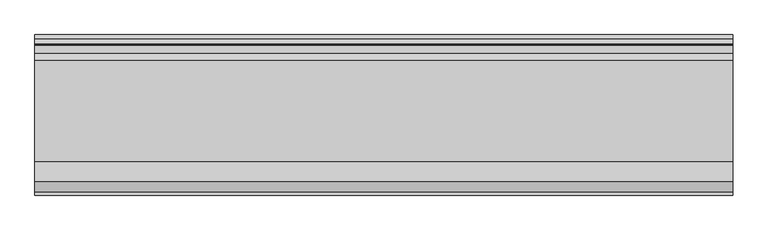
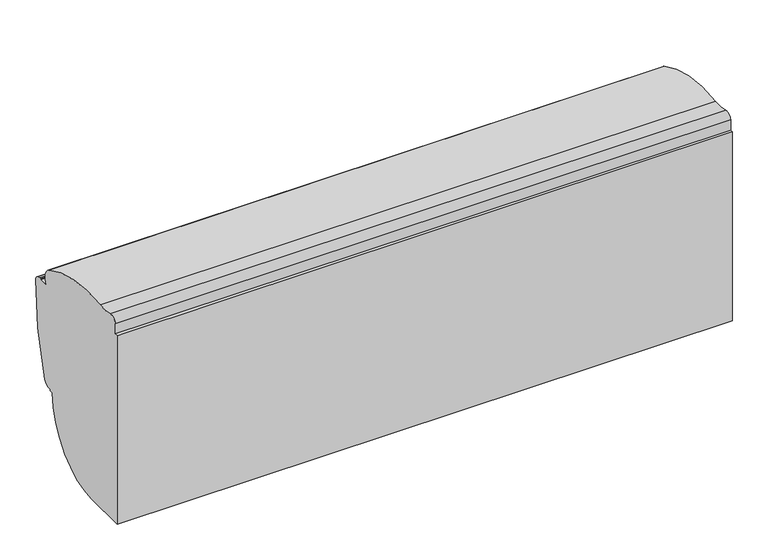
"""IFC4 building model written with IfcOpenShell, lengths in millimetres: proxy geometry, AI_Eqpmt genie clim_Unité intérieure de climatisation : AI_Eqpmt genie clim_Unité intérieure de climatisation."""

import ifcopenshell
import ifcopenshell.guid

model = None  # the IFC model being written
_history = None  # IfcOwnerHistory: only IFC2X3 demands one
_inside = {}  # id of a spatial element -> (the spatial element, [elements in it])
_under = {}  # id of a project, library or spatial element -> (it, [spatial elements below it])
_declared = {}  # id of a project -> (the project, [libraries it declares])
_typed = {}  # id of a type object -> (the type object, [elements of that type])
_made_of = {}  # id of a material, layer set ... -> (it, [elements and type objects made of it])


def new_model(schema):
    """Start an empty IFC model of exactly this schema.

    Asked for "IFC4X3", IfcOpenShell would pick the latest addendum, in which some entities
    have other attributes; the version numbers below select the first issue.
    IFC2X3 requires an IfcOwnerHistory on every rooted entity: one is made here for all.
    """
    global model, _history
    if schema == "IFC4X3":
        model = ifcopenshell.file(schema_version=(4, 3, 0, 0))
    else:
        model = ifcopenshell.file(schema=schema)
    _inside.clear()
    _under.clear()
    _declared.clear()
    _typed.clear()
    _made_of.clear()
    _history = None
    if model.schema == "IFC2X3":
        org = make("IfcOrganization", Name="unknown")
        user = make(
            "IfcPersonAndOrganization",
            ThePerson=make("IfcPerson", FamilyName="unknown"),
            TheOrganization=org,
        )
        app = make(
            "IfcApplication",
            ApplicationDeveloper=org,
            Version="unknown",
            ApplicationFullName="unknown",
            ApplicationIdentifier="unknown",
        )
        _history = make(
            "IfcOwnerHistory",
            OwningUser=user,
            OwningApplication=app,
            ChangeAction="ADDED",
            CreationDate=0,
        )
    return model


def make(cls, **values):
    """One entity of the class cls with the attributes given. An attribute that is None is left unset."""
    return model.create_entity(
        cls, **{name: value for name, value in values.items() if value is not None}
    )


def rooted(cls, **values):
    """An entity with a GlobalId (a new one), such as an element, a storey or a relation."""
    return make(cls, GlobalId=ifcopenshell.guid.new(), OwnerHistory=_history, **values)


def si_unit(unit_type, name, prefix=None):
    """IfcSIUnit, for example si_unit("LENGTHUNIT", "METRE", prefix="MILLI")."""
    return make("IfcSIUnit", UnitType=unit_type, Prefix=prefix, Name=name)


def assignment(units):
    """IfcUnitAssignment: the units of a project."""
    return None if units is None else make("IfcUnitAssignment", Units=units)


def point(xyz):
    """IfcCartesianPoint."""
    return None if xyz is None else make("IfcCartesianPoint", Coordinates=xyz)


def direction(xyz):
    """IfcDirection."""
    return None if xyz is None else make("IfcDirection", DirectionRatios=xyz)


def frame(location, z_axis=None, x_axis=None):
    """IfcAxis2Placement3D, a coordinate frame: its origin and axes. An axis left out is left unset."""
    return make(
        "IfcAxis2Placement3D",
        Location=point(location),
        Axis=direction(z_axis),
        RefDirection=direction(x_axis),
    )


def frame_2d(location, x_axis=None):
    """IfcAxis2Placement2D, a coordinate frame in the plane: its origin and x axis."""
    return make(
        "IfcAxis2Placement2D", Location=point(location), RefDirection=direction(x_axis)
    )


def origin():
    """The frame at (0, 0, 0) with its axes left unset."""
    return frame((0.0, 0.0, 0.0))


def place(relative_to, where):
    """IfcLocalPlacement: puts the frame where relative to a parent placement (None: the world)."""
    return make(
        "IfcLocalPlacement", PlacementRelTo=relative_to, RelativePlacement=where
    )


def context(
    kind, dimensions, precision=None, world=None, true_north=None, identifier=None
):
    """IfcGeometricRepresentationContext, for example the 3D "Model" context."""
    return make(
        "IfcGeometricRepresentationContext",
        ContextIdentifier=identifier,
        ContextType=kind,
        CoordinateSpaceDimension=dimensions,
        Precision=precision,
        WorldCoordinateSystem=world,
        TrueNorth=true_north,
    )


def project(units=None, contexts=None):
    """IfcProject with its units and contexts."""
    return rooted(
        "IfcProject",
        Name="project",
        RepresentationContexts=contexts,
        UnitsInContext=assignment(units),
    )


def spatial(cls, under=None, at=None, **own):
    """A site, building, storey or space (cls), placed at a placement, below another one or the project."""
    s = rooted(cls, ObjectPlacement=at, **own)
    if under is not None:
        _under.setdefault(under.id(), (under, []))[1].append(s)
    return s


def polyline(points):
    """IfcPolyline through the points."""
    return make("IfcPolyline", Points=[point(p) for p in points])


def circle_curve(where, radius):
    """IfcCircle in the frame where."""
    return make("IfcCircle", Position=where, Radius=radius)


def trimmed(basis, trim1, trim2, sense, master):
    """IfcTrimmedCurve: the piece of a basis curve between two trims."""
    return make(
        "IfcTrimmedCurve",
        BasisCurve=basis,
        Trim1=trim1,
        Trim2=trim2,
        SenseAgreement=sense,
        MasterRepresentation=master,
    )


def segment(curve, same_sense, transition):
    """IfcCompositeCurveSegment."""
    return make(
        "IfcCompositeCurveSegment",
        Transition=transition,
        SameSense=same_sense,
        ParentCurve=curve,
    )


def composite_curve(segments, self_intersect=None):
    """IfcCompositeCurve: segments joined end to end."""
    return make("IfcCompositeCurve", Segments=segments, SelfIntersect=self_intersect)


def outline(outer, holes=None, kind="AREA"):
    """IfcArbitraryClosedProfileDef: a profile drawn as a closed curve; with holes, ...WithVoids."""
    if holes is None:
        return make("IfcArbitraryClosedProfileDef", ProfileType=kind, OuterCurve=outer)
    return make(
        "IfcArbitraryProfileDefWithVoids",
        ProfileType=kind,
        OuterCurve=outer,
        InnerCurves=holes,
    )


def extrude(swept, where, along, depth):
    """IfcExtrudedAreaSolid: the profile swept, set in the frame where, extruded along a direction by depth."""
    return make(
        "IfcExtrudedAreaSolid",
        SweptArea=swept,
        Position=where,
        ExtrudedDirection=direction(along),
        Depth=depth,
    )


def shape(context_of_items, identifier, shape_type, items):
    """IfcShapeRepresentation: the items that make up one representation, for example the "Body"."""
    return make(
        "IfcShapeRepresentation",
        ContextOfItems=context_of_items,
        RepresentationIdentifier=identifier,
        RepresentationType=shape_type,
        Items=items,
    )


def source(mapping_origin, context_of_items, identifier, shape_type, items):
    """IfcRepresentationMap: a shape defined once, which mapped items show again and again."""
    return make(
        "IfcRepresentationMap",
        MappingOrigin=mapping_origin,
        MappedRepresentation=shape(context_of_items, identifier, shape_type, items),
    )


def transform(
    local_origin,
    x_axis=None,
    y_axis=None,
    z_axis=None,
    scale=None,
    scale2=None,
    scale3=None,
    uniform=True,
):
    """IfcCartesianTransformationOperator3D, or its non-uniform kind. x_axis, y_axis, z_axis: its Axis1, 2, 3."""
    if uniform:
        return make(
            "IfcCartesianTransformationOperator3D",
            Axis1=direction(x_axis),
            Axis2=direction(y_axis),
            LocalOrigin=point(local_origin),
            Scale=scale,
            Axis3=direction(z_axis),
        )
    return make(
        "IfcCartesianTransformationOperator3DnonUniform",
        Axis1=direction(x_axis),
        Axis2=direction(y_axis),
        LocalOrigin=point(local_origin),
        Scale=scale,
        Axis3=direction(z_axis),
        Scale2=scale2,
        Scale3=scale3,
    )


def mapped(mapping_source, mapping_target):
    """IfcMappedItem: shows the shape of a source again, moved by a transform."""
    return make(
        "IfcMappedItem", MappingSource=mapping_source, MappingTarget=mapping_target
    )


def made_of(thing, what):
    """Note that an element or type object is made of a material, layer set ...; save() writes the relation."""
    if what is not None:
        _made_of.setdefault(what.id(), (what, []))[1].append(thing)
    return thing


def element(
    cls,
    number,
    at=None,
    inside=None,
    cuts=None,
    type_object=None,
    material=None,
    context=None,
    identifier="Body",
    shape_type=None,
    held_by="IfcProductDefinitionShape",
    body=None,
    shapes=None,
    **own,
):
    """One element of the class cls, such as IfcWall. Its Tag is "e" and its number.

    at: its placement. inside: the storey or other place that contains it. cuts: it is an
    opening in that element (IfcRelVoidsElement). A single representation is given by context,
    identifier, shape_type and body (its items); several are given by shapes. held_by: the class
    of the entity that holds the representations. save() writes the other relations.
    """
    e = rooted(cls, Tag="e%d" % number, ObjectPlacement=at, **own)
    if body is not None:
        shapes = [shape(context, identifier, shape_type, body)]
    if shapes is not None:
        e.Representation = make(held_by, Representations=shapes)
    if inside is not None:
        _inside.setdefault(inside.id(), (inside, []))[1].append(e)
    if cuts is not None:
        rooted(
            "IfcRelVoidsElement", RelatingBuildingElement=cuts, RelatedOpeningElement=e
        )
    if type_object is not None:
        _typed.setdefault(type_object.id(), (type_object, []))[1].append(e)
    return made_of(e, material)


def aggregate(whole, parts):
    """IfcRelAggregates: a whole, such as a stair, and the parts it consists of."""
    return rooted("IfcRelAggregates", RelatingObject=whole, RelatedObjects=parts)


def save(model, path):
    """Write the relations noted so far, then the file.

    IfcRelAggregates (storeys below a building ...), IfcRelContainedInSpatialStructure (elements
    in a storey), IfcRelDefinesByType, IfcRelAssociatesMaterial and IfcRelDeclares: one each for
    every whole, place, type object, material and project.
    """
    for whole, parts in _under.values():
        aggregate(whole, parts)
    for where, things in _inside.values():
        rooted(
            "IfcRelContainedInSpatialStructure",
            RelatedElements=things,
            RelatingStructure=where,
        )
    for kind, things in _typed.values():
        rooted("IfcRelDefinesByType", RelatedObjects=things, RelatingType=kind)
    for what, things in _made_of.values():
        rooted("IfcRelAssociatesMaterial", RelatedObjects=things, RelatingMaterial=what)
    for by, libraries in _declared.values():
        rooted("IfcRelDeclares", RelatingContext=by, RelatedDefinitions=libraries)
    model.write(path)


def mechanical_equipment_eb6c6a63(model_context):
    return source(origin(), model_context, "Body", "SweptSolid", [
        extrude(outline(composite_curve([segment(trimmed(circle_curve(frame_2d((79.3407419, 123.2073457)), 227.0921586), [point((48.1575236, 348.14835))], [point((192.734612, 319.9627237))], False, "CARTESIAN"), True, "CONTINUOUS"), segment(trimmed(circle_curve(frame_2d((182.1610178, 301.6159513)), 21.1755743), [point((192.734612, 319.9627237))], [point((199.8342445, 289.9513893))], False, "CARTESIAN"), True, "CONTINUOUS"), segment(polyline([(199.8342445, 289.9513893), (215.6584268, 289.9513893)]), True, "CONTINUOUS"), segment(trimmed(circle_curve(frame_2d((209.4209586, 290.6319944)), 6.2744906), [point((215.6584268, 289.9513893))], [point((215.6126101, 291.6482055))], True, "CARTESIAN"), True, "CONTINUOUS"), segment(trimmed(circle_curve(frame_2d((216.4149077, 291.7798835)), 0.8130317), [point((215.6126101, 291.6482055))], [point((216.7306145, 292.5291162))], False, "CARTESIAN"), True, "CONTINUOUS"), segment(polyline([(216.7306145, 292.5291162), (223.9748694, 289.4765793)]), True, "CONTINUOUS"), segment(trimmed(circle_curve(frame_2d((220.091788, 280.2612833)), 10.0), [point((223.9748694, 289.4765793))], [point((230.0900418, 280.4481585))], False, "CARTESIAN"), True, "CONTINUOUS"), segment(trimmed(circle_curve(frame_2d((-192.797656, 272.5440569)), 422.9615582), [point((230.0900418, 280.4481585))], [point((203.9381779, 125.9249658))], False, "CARTESIAN"), True, "CONTINUOUS"), segment(trimmed(circle_curve(frame_2d((191.7669248, 130.423017)), 12.9758185), [point((203.9381779, 125.9249658))], [point((191.7669248, 117.4471985))], False, "CARTESIAN"), True, "CONTINUOUS"), segment(polyline([(191.7669248, 117.4471985), (189.0760708, 117.4471985), (188.5029126, 115.3081427), (183.230525, 115.3081427)]), True, "CONTINUOUS"), segment(trimmed(circle_curve(frame_2d((54.9885782, 120.7490003)), 128.3573132), [point((183.230525, 115.3081427))], [point((147.3039071, 31.5667157))], False, "CARTESIAN"), True, "CONTINUOUS"), segment(trimmed(circle_curve(frame_2d((72.917446, 103.4286115)), 103.4286115), [point((147.3039071, 31.5667157))], [point((72.917446, 0.0))], False, "CARTESIAN"), True, "CONTINUOUS"), segment(polyline([(72.917446, 0.0), (0.0738605, 0.0), (0.0738605, 324.34455), (5.0738605, 324.34455), (5.0738605, 341.6919743)]), True, "CONTINUOUS"), segment(trimmed(circle_curve(frame_2d((16.0797271, 339.08333)), 11.3107968), [point((5.0738605, 341.6919743))], [point((19.0395315, 350.0))], False, "CARTESIAN"), True, "CONTINUOUS"), segment(trimmed(circle_curve(frame_2d((38.1364798, 420.4354258)), 72.9783711), [point((19.0395315, 350.0))], [point((48.1575236, 348.14835))], True, "CARTESIAN"), True, "CONTINUOUS")], self_intersect=False)), frame((-500.0, 0.0, 0.0), z_axis=(1.0, 0.0, 0.0), x_axis=(0.0, 1.0, 0.0)), (0.0, 0.0, 1.0), 1000.0),
    ])


if __name__ == "__main__":
    model = new_model("IFC4")
    model_context = context("Model", 3, world=origin())
    ifc_project = project(units=[si_unit("LENGTHUNIT", "METRE", prefix="MILLI")], contexts=[model_context])
    site = spatial("IfcSite", under=ifc_project)
    building = spatial("IfcBuilding", under=site)
    placement = place(None, origin())
    mechanical_equipment_shape = mechanical_equipment_eb6c6a63(model_context)
    element("IfcBuildingElementProxy", 1, Name="AI_Eqpmt genie clim_Unité intérieure de climatisation : AI_Eqpmt genie clim_Unité intérieure de climatisation", ObjectType="AI_Eqpmt genie clim_Unité intérieure de climatisation : AI_Eqpmt genie clim_Unité intérieure de climatisation", at=placement, inside=building, context=model_context, shape_type="MappedRepresentation", body=[
        mapped(mechanical_equipment_shape, transform((0.0, 0.0, 0.0), x_axis=(1.0, 0.0, 0.0), y_axis=(0.0, 1.0, 0.0), z_axis=(0.0, 0.0, 1.0))),
    ])
    save(model, "model.ifc")
